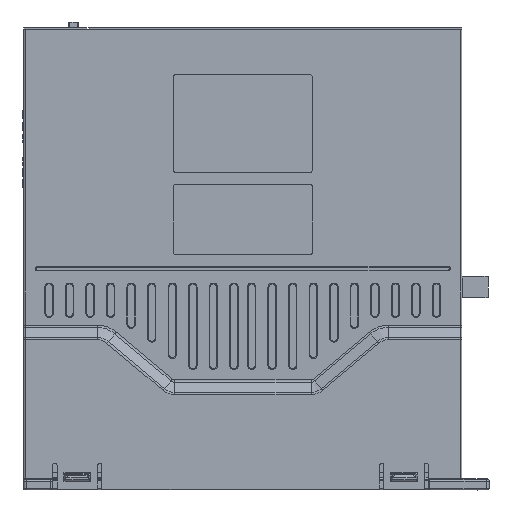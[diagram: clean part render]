
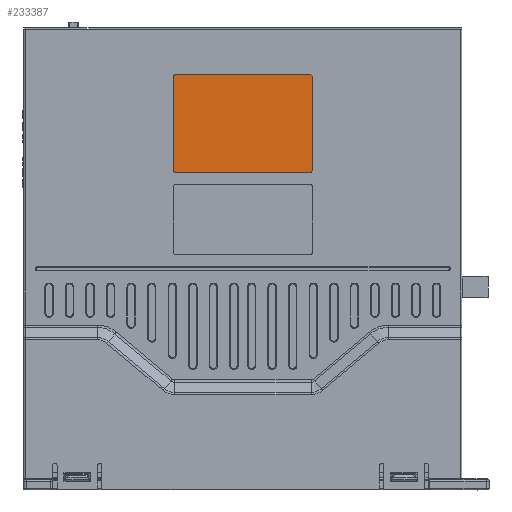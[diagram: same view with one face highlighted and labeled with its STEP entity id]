
A CAD part, front view. The second image highlights one B-rep face of the part: STEP entity #233387.
In plain terms, the highlighted planar face has unit normal (0, -1, 0).
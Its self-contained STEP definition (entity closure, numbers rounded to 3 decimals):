
#199971=CARTESIAN_POINT('',(-24.5,-22.7,150.5));
#199972=DIRECTION('',(0.,-1.,0.));
#199973=DIRECTION('',(0.,0.,1.));
#199974=AXIS2_PLACEMENT_3D('',#199971,#199972,#199973);
#199979=DIRECTION('',(-1.,0.,0.));
#199980=VECTOR('',#199979,49.);
#199981=CARTESIAN_POINT('',(24.5,-22.7,151.35));
#199982=LINE('',#199981,#199980);
#199986=CARTESIAN_POINT('',(24.5,-22.7,150.5));
#199987=DIRECTION('',(0.,-1.,0.));
#199988=DIRECTION('',(1.,0.,0.));
#199989=AXIS2_PLACEMENT_3D('',#199986,#199987,#199988);
#199994=DIRECTION('',(0.,0.,1.));
#199995=VECTOR('',#199994,34.);
#199996=CARTESIAN_POINT('',(25.35,-22.7,116.5));
#199997=LINE('',#199996,#199995);
#200001=CARTESIAN_POINT('',(24.5,-22.7,116.5));
#200002=DIRECTION('',(0.,-1.,0.));
#200003=DIRECTION('',(0.,0.,-1.));
#200004=AXIS2_PLACEMENT_3D('',#200001,#200002,#200003);
#200009=DIRECTION('',(1.,0.,0.));
#200010=VECTOR('',#200009,49.);
#200011=CARTESIAN_POINT('',(-24.5,-22.7,115.65));
#200012=LINE('',#200011,#200010);
#200016=CARTESIAN_POINT('',(-24.5,-22.7,116.5));
#200017=DIRECTION('',(0.,-1.,0.));
#200018=DIRECTION('',(-1.,0.,0.));
#200019=AXIS2_PLACEMENT_3D('',#200016,#200017,#200018);
#200024=DIRECTION('',(0.,0.,-1.));
#200025=VECTOR('',#200024,34.);
#200026=CARTESIAN_POINT('',(-25.35,-22.7,150.5));
#200027=LINE('',#200026,#200025);
#214767=CARTESIAN_POINT('',(-24.5,-22.7,151.35));
#214768=CARTESIAN_POINT('',(-25.35,-22.7,150.5));
#214769=VERTEX_POINT('',#214767);
#214770=VERTEX_POINT('',#214768);
#214771=CARTESIAN_POINT('',(-25.35,-22.7,116.5));
#214772=VERTEX_POINT('',#214771);
#214773=CARTESIAN_POINT('',(-24.5,-22.7,115.65));
#214774=VERTEX_POINT('',#214773);
#214775=CARTESIAN_POINT('',(24.5,-22.7,115.65));
#214776=VERTEX_POINT('',#214775);
#214777=CARTESIAN_POINT('',(25.35,-22.7,116.5));
#214778=VERTEX_POINT('',#214777);
#214779=CARTESIAN_POINT('',(25.35,-22.7,150.5));
#214780=VERTEX_POINT('',#214779);
#214781=CARTESIAN_POINT('',(24.5,-22.7,151.35));
#214782=VERTEX_POINT('',#214781);
#233372=CARTESIAN_POINT('',(0.,-22.7,0.));
#233373=DIRECTION('',(0.,-1.,0.));
#233374=DIRECTION('',(1.,0.,0.));
#233375=AXIS2_PLACEMENT_3D('',#233372,#233373,#233374);
#233376=PLANE('',#233375);
#233377=ORIENTED_EDGE('',*,*,#233268,.F.);
#233378=ORIENTED_EDGE('',*,*,#233283,.F.);
#233379=ORIENTED_EDGE('',*,*,#233297,.F.);
#233380=ORIENTED_EDGE('',*,*,#233311,.F.);
#233381=ORIENTED_EDGE('',*,*,#233325,.F.);
#233382=ORIENTED_EDGE('',*,*,#233339,.F.);
#233383=ORIENTED_EDGE('',*,*,#233353,.F.);
#233384=ORIENTED_EDGE('',*,*,#233366,.F.);
#233385=EDGE_LOOP('',(#233377,#233378,#233379,#233380,#233381,#233382,#233383,
#233384));
#233386=FACE_OUTER_BOUND('',#233385,.F.);
#199975=CIRCLE('',#199974,0.85);
#199990=CIRCLE('',#199989,0.85);
#200005=CIRCLE('',#200004,0.85);
#200020=CIRCLE('',#200019,0.85);
#233268=EDGE_CURVE('',#214769,#214770,#199975,.T.);
#233283=EDGE_CURVE('',#214782,#214769,#199982,.T.);
#233297=EDGE_CURVE('',#214780,#214782,#199990,.T.);
#233311=EDGE_CURVE('',#214778,#214780,#199997,.T.);
#233325=EDGE_CURVE('',#214776,#214778,#200005,.T.);
#233339=EDGE_CURVE('',#214774,#214776,#200012,.T.);
#233353=EDGE_CURVE('',#214772,#214774,#200020,.T.);
#233366=EDGE_CURVE('',#214770,#214772,#200027,.T.);
#233387=ADVANCED_FACE('',(#233386),#233376,.T.);
